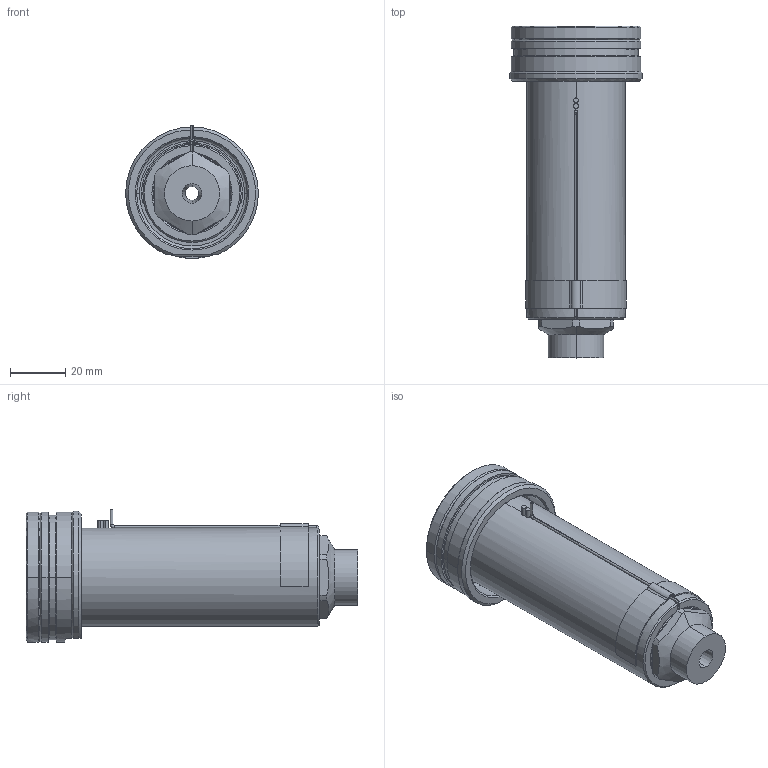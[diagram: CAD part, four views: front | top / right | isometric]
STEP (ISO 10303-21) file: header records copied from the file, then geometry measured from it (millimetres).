
FILE_DESCRIPTION((''),'2;1');
FILE_NAME('EO16_VG-ST_STD_100_SW','2024-02-19T12:54:53',('sundharh'),(''),'CREO PARAMETRIC BY PTC INC, 2023154','CREO PARAMETRIC BY PTC INC, 2023154','');
FILE_SCHEMA(('CONFIG_CONTROL_DESIGN'));
Length unit declared in the file: millimetre
Products named in the file (1): EO16_VG-ST_STD_100_SW
Bounding box: 47.97 x 120 x 48 mm (x, y, z)
Volume: 101531.9 mm3; surface area: 26591.7 mm2
Topology: 1 solids, 1 shells, 169 faces, 418 edges, 256 vertices
Faces by surface type: cylinder 64, plane 45, cone 35, torus 14, bspline 9, sphere 2
Entity records: 5781 total; most frequent: CARTESIAN_POINT 1695, DIRECTION 906, ORIENTED_EDGE 824, EDGE_CURVE 412, AXIS2_PLACEMENT_3D 374, VERTEX_POINT 256, CIRCLE 214, EDGE_LOOP 184
